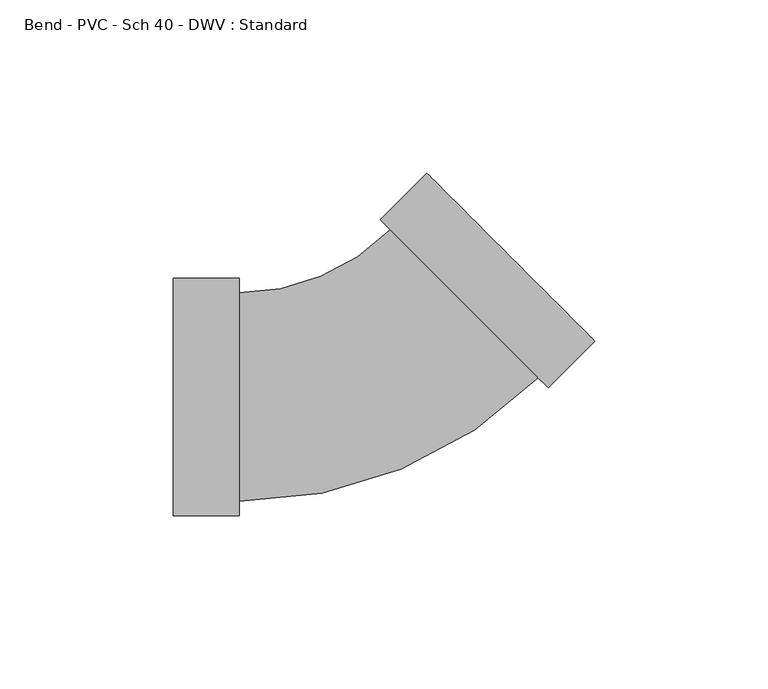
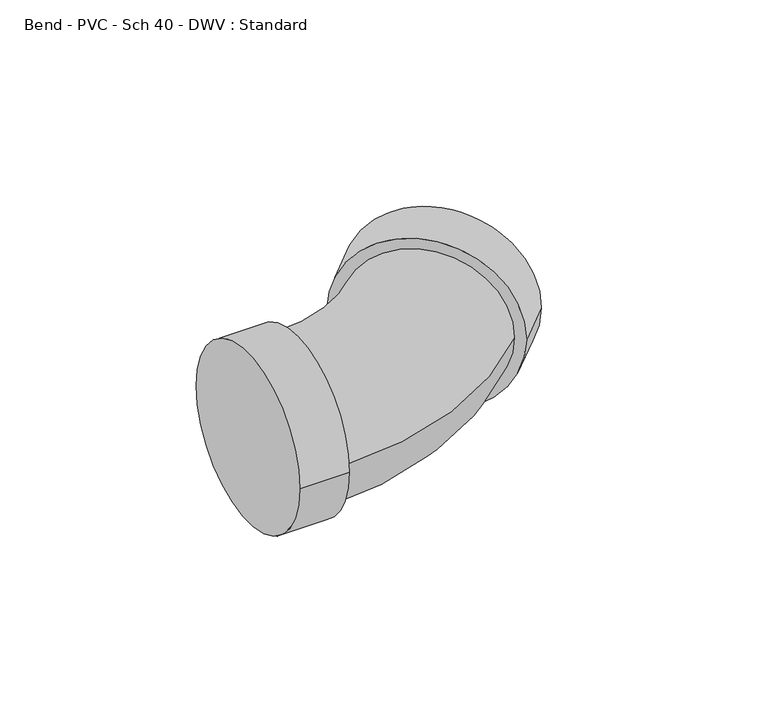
"""IFC4 building model written with IfcOpenShell, lengths in millimetres: pipe fitting geometry, Bend - PVC - Sch 40 - DWV : Standard."""

from ifc_helpers import new_model, si_unit, point, frame, origin, place, context, project, spatial, circle_curve, ellipse_curve, trimmed, source, transform, mapped, element, save
from ifc_brep_helpers import plane_surface, cylinder_surface, revolved_surface, advanced_brep


def bend_pvc_sch_40_dwv_standard_5453613f(model_context):
    return source(origin(), model_context, "Body", "AdvancedBrep", [
        advanced_brep(
        [(-57.15, -34.3154, 0.0), (-57.15, 34.3154, 0.0), (-38.1, -34.3154, 0.0), (-38.1, 34.3154, 0.0), (-38.1, -30.1625, 0.0), (-38.1, 30.1625, 0.0), (5.6126601, 48.2688767, 0.0), (48.2688767, 5.6126601, 0.0), (51.2054204, 2.6761163, 0.0), (2.6761163, 51.2054204, 0.0), (64.6758046, 16.1465005, 0.0), (16.1465005, 64.6758046, 0.0)],
        [
            (0, 1, circle_curve(frame((-57.15, 0.0, 0.0), z_axis=(-1.0, 0.0, 0.0), x_axis=(0.0, 1.0, 0.0)), 34.3154)),
            (1, 0, circle_curve(frame((-57.15, 0.0, 0.0), z_axis=(-1.0, 0.0, 0.0), x_axis=(0.0, 1.0, 0.0)), 34.3154)),
            (2, 3, circle_curve(frame((-38.1, 0.0, 0.0), z_axis=(1.0, 0.0, 0.0), x_axis=(0.0, 1.0, 0.0)), 34.3154)),
            (3, 2, circle_curve(frame((-38.1, 0.0, 0.0), z_axis=(1.0, 0.0, 0.0), x_axis=(0.0, 1.0, 0.0)), 34.3154)),
            (4, 5, circle_curve(frame((-38.1, 0.0, 0.0), z_axis=(-1.0, 0.0, 0.0), x_axis=(0.0, 1.0, 0.0)), 30.1625)),
            (5, 4, circle_curve(frame((-38.1, 0.0, 0.0), z_axis=(-1.0, 0.0, 0.0), x_axis=(0.0, 1.0, 0.0)), 30.1625)),
            (0, 2),
            (3, 1),
            (6, 5, circle_curve(frame((-38.1, 91.9815367, 0.0), z_axis=(0.0, 0.0, -1.0), x_axis=(0.0, -1.0, 0.0)), 61.8190367)),
            (4, 7, circle_curve(frame((-38.1, 91.9815367, 0.0), z_axis=(0.0, 0.0, 1.0), x_axis=(0.0, -1.0, 0.0)), 122.1440367)),
            (7, 6, circle_curve(frame((26.9407684, 26.9407684, 0.0), z_axis=(-0.707106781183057, -0.707106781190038, 0.0), x_axis=(-0.707106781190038, 0.707106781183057, 0.0)), 30.1625)),
            (6, 7, circle_curve(frame((26.9407684, 26.9407684, 0.0), z_axis=(-0.707106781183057, -0.707106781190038, 0.0), x_axis=(-0.707106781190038, 0.707106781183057, 0.0)), 30.1625)),
            (8, 9, circle_curve(frame((26.9407684, 26.9407684, 0.0), z_axis=(-0.707106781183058, -0.7071067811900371, 0.0), x_axis=(-0.7071067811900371, 0.707106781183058, 0.0)), 34.3154)),
            (9, 8, circle_curve(frame((26.9407684, 26.9407684, 0.0), z_axis=(-0.707106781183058, -0.7071067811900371, 0.0), x_axis=(-0.7071067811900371, 0.707106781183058, 0.0)), 34.3154)),
            (10, 11, circle_curve(frame((40.4111525, 40.4111525, 0.0), z_axis=(0.707106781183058, 0.7071067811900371, 0.0), x_axis=(-0.7071067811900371, 0.707106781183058, 0.0)), 34.3154)),
            (11, 10, circle_curve(frame((40.4111525, 40.4111525, 0.0), z_axis=(0.707106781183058, 0.7071067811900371, 0.0), x_axis=(-0.7071067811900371, 0.707106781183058, 0.0)), 34.3154)),
            (8, 10),
            (11, 9),
        ],
        [
            plane_surface(frame((-57.15, 0.0, 0.0), z_axis=(-1.0, 0.0, 0.0), x_axis=(0.0, 0.0, 1.0))),
            plane_surface(frame((-38.1, 0.0, 0.0), z_axis=(1.0, 0.0, 0.0), x_axis=(0.0, 0.0, 1.0))),
            cylinder_surface(frame((-57.15, 0.0, 0.0), z_axis=(-1.0, 0.0, 0.0), x_axis=(0.0, 1.0, 0.0)), 34.3154),
            revolved_surface(trimmed(ellipse_curve(frame((-38.1, 0.0, 0.0), z_axis=(-1.0, 0.0, 0.0), x_axis=(0.0, 1.0, 0.0)), 30.1625, 30.1625), [point((-38.1, -30.1625, 0.0))], [point((-38.1, 30.1625, 0.0))], True, "CARTESIAN"), (-38.1, 91.9815367, 0.0), (0.0, 0.0, 1.0)),
            revolved_surface(trimmed(ellipse_curve(frame((-38.1, 0.0, 0.0), z_axis=(-1.0, 0.0, 0.0), x_axis=(0.0, 1.0, 0.0)), 30.1625, 30.1625), [point((-38.1, 30.1625, 0.0))], [point((-38.1, -30.1625, 0.0))], True, "CARTESIAN"), (-38.1, 91.9815367, 0.0), (0.0, 0.0, 1.0)),
            plane_surface(frame((26.9407684, 26.9407684, 0.0), z_axis=(-0.707106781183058, -0.7071067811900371, 0.0), x_axis=(0.0, 0.0, 1.0))),
            plane_surface(frame((40.4111525, 40.4111525, 0.0), z_axis=(0.707106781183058, 0.7071067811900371, 0.0), x_axis=(0.0, 0.0, 1.0))),
            cylinder_surface(frame((26.9407684, 26.9407684, 0.0), z_axis=(-0.707106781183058, -0.7071067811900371, 0.0), x_axis=(-0.7071067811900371, 0.707106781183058, 0.0)), 34.3154),
        ],
        [
            (0, [[1, 2]]),
            (1, [[3, 4], [5, 6]]),
            (2, [[-1, 7, -4, 8]]),
            (2, [[-2, -8, -3, -7]]),
            (3, [[9, -5, 10, 11]]),
            (4, [[-9, 12, -10, -6]]),
            (5, [[13, 14], [-11, -12]]),
            (6, [[15, 16]]),
            (7, [[-13, 17, -16, 18]]),
            (7, [[-14, -18, -15, -17]]),
        ],
    ),
    ])


if __name__ == "__main__":
    model = new_model("IFC4")
    model_context = context("Model", 3, world=origin())
    ifc_project = project(units=[si_unit("LENGTHUNIT", "METRE", prefix="MILLI")], contexts=[model_context])
    site = spatial("IfcSite", under=ifc_project)
    building = spatial("IfcBuilding", under=site)
    placement = place(None, origin())
    bend_pvc_sch_40_dwv_standard_shape = bend_pvc_sch_40_dwv_standard_5453613f(model_context)
    element("IfcPipeFitting", 1, ObjectType="Bend - PVC - Sch 40 - DWV : Standard", at=placement, inside=building, context=model_context, shape_type="MappedRepresentation", body=[
        mapped(bend_pvc_sch_40_dwv_standard_shape, transform((0.0, 0.0, 0.0), x_axis=(1.0, 0.0, 0.0), y_axis=(0.0, 1.0, 0.0), z_axis=(0.0, 0.0, 1.0))),
    ])
    save(model, "model.ifc")
